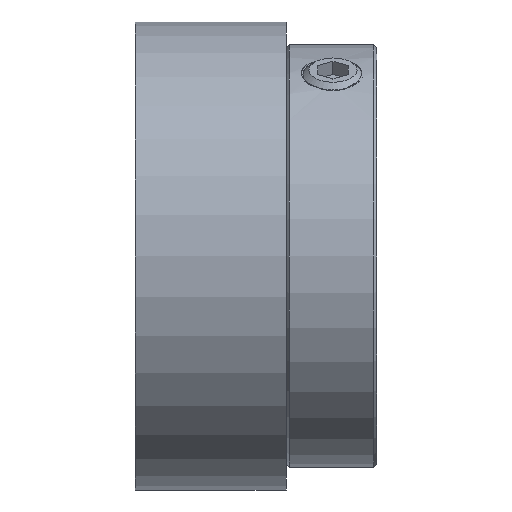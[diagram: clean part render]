
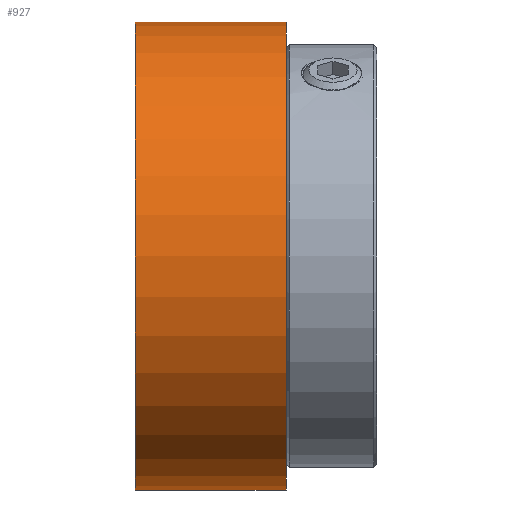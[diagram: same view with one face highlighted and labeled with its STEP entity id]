
A CAD part, front view. The second image highlights one B-rep face of the part: STEP entity #927.
In plain terms, the highlighted cylindrical face has radius 15.5 mm (diameter 31 mm), a full revolution.
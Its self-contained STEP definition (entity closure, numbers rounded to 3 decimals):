
#5 = CIRCLE ( 'NONE', #171, 15.5 ) ;
#118 = AXIS2_PLACEMENT_3D ( 'NONE', #751, #735, #754 ) ;
#171 = AXIS2_PLACEMENT_3D ( 'NONE', #1102, #1109, #1195 ) ;
#181 = EDGE_CURVE ( 'NONE', #425, #425, #866, .T. ) ;
#208 = AXIS2_PLACEMENT_3D ( 'NONE', #1291, #1497, #1421 ) ;
#296 = EDGE_CURVE ( 'NONE', #453, #453, #5, .T. ) ;
#380 = EDGE_LOOP ( 'NONE', ( #1592 ) ) ;
#416 = FACE_OUTER_BOUND ( 'NONE', #380, .T. ) ;
#421 = FACE_OUTER_BOUND ( 'NONE', #861, .T. ) ;
#423 = CYLINDRICAL_SURFACE ( 'NONE', #118, 15.5 ) ;
#425 = VERTEX_POINT ( 'NONE', #707 ) ;
#453 = VERTEX_POINT ( 'NONE', #1512 ) ;
#707 = CARTESIAN_POINT ( 'NONE',  ( 9.5, 0., -15.5 ) ) ;
#735 = DIRECTION ( 'NONE',  ( -1., 0., 0. ) ) ;
#751 = CARTESIAN_POINT ( 'NONE',  ( 9.5, 0., 0. ) ) ;
#754 = DIRECTION ( 'NONE',  ( 0., 0., 1. ) ) ;
#861 = EDGE_LOOP ( 'NONE', ( #1591 ) ) ;
#866 = CIRCLE ( 'NONE', #208, 15.5 ) ;
#927 = ADVANCED_FACE ( 'NONE', ( #416, #421 ), #423, .T. ) ;
#1102 = CARTESIAN_POINT ( 'NONE',  ( -0.5, 0., 0. ) ) ;
#1109 = DIRECTION ( 'NONE',  ( 1., 0., 0. ) ) ;
#1195 = DIRECTION ( 'NONE',  ( 0., 0., -1. ) ) ;
#1291 = CARTESIAN_POINT ( 'NONE',  ( 9.5, 0., 0. ) ) ;
#1421 = DIRECTION ( 'NONE',  ( 0., 0., -1. ) ) ;
#1497 = DIRECTION ( 'NONE',  ( 1., 0., 0. ) ) ;
#1512 = CARTESIAN_POINT ( 'NONE',  ( -0.5, 0., -15.5 ) ) ;
#1591 = ORIENTED_EDGE ( 'NONE', *, *, #296, .T. ) ;
#1592 = ORIENTED_EDGE ( 'NONE', *, *, #181, .F. ) ;
